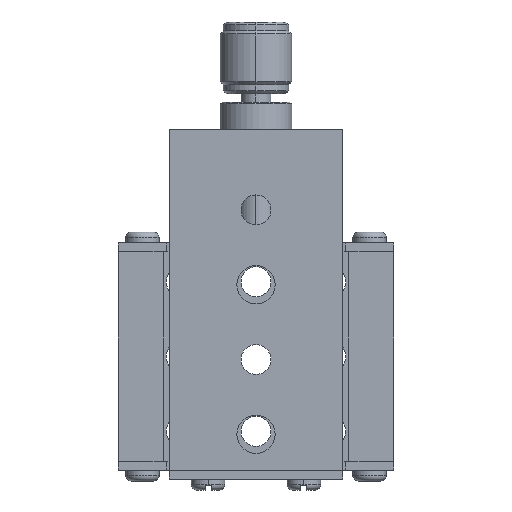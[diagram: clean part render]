
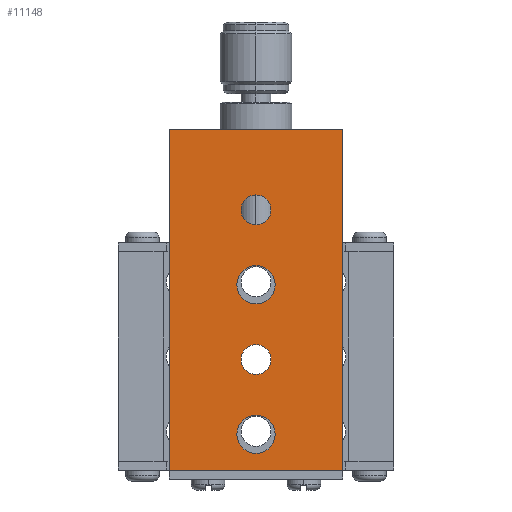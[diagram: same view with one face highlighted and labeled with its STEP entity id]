
A CAD part, left-side view. The second image highlights one B-rep face of the part: STEP entity #11148.
In plain terms, the highlighted planar face has unit normal (-1, 0, 0).
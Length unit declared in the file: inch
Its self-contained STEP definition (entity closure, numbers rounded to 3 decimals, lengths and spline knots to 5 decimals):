
#1=DIRECTION('',(0.,0.,1.));
#2=VECTOR('',#1,2.24409);
#3=CARTESIAN_POINT('',(0.,0.57087,-0.98425));
#4=LINE('',#3,#2);
#5=DIRECTION('',(0.,-1.,0.));
#6=VECTOR('',#5,1.14173);
#7=CARTESIAN_POINT('',(0.,0.57087,-0.98425));
#8=LINE('',#7,#6);
#9=CARTESIAN_POINT('',(0.,0.,0.72835));
#10=DIRECTION('',(1.,0.,0.));
#11=DIRECTION('',(0.,-1.,0.));
#12=AXIS2_PLACEMENT_3D('',#9,#10,#11);
#14=CARTESIAN_POINT('',(0.,0.,0.72835));
#15=DIRECTION('',(1.,0.,0.));
#16=DIRECTION('',(0.,1.,0.));
#17=AXIS2_PLACEMENT_3D('',#14,#15,#16);
#19=CARTESIAN_POINT('',(0.,0.,0.23622));
#20=DIRECTION('',(-1.,0.,0.));
#21=DIRECTION('',(0.,-1.,0.));
#22=AXIS2_PLACEMENT_3D('',#19,#20,#21);
#24=CARTESIAN_POINT('',(0.,0.,0.23622));
#25=DIRECTION('',(-1.,0.,0.));
#26=DIRECTION('',(0.,1.,0.));
#27=AXIS2_PLACEMENT_3D('',#24,#25,#26);
#29=CARTESIAN_POINT('',(0.,0.,-0.25591));
#30=DIRECTION('',(1.,0.,0.));
#31=DIRECTION('',(0.,-1.,0.));
#32=AXIS2_PLACEMENT_3D('',#29,#30,#31);
#34=CARTESIAN_POINT('',(0.,0.,-0.25591));
#35=DIRECTION('',(1.,0.,0.));
#36=DIRECTION('',(0.,1.,0.));
#37=AXIS2_PLACEMENT_3D('',#34,#35,#36);
#39=CARTESIAN_POINT('',(0.,0.,-0.74803));
#40=DIRECTION('',(-1.,0.,0.));
#41=DIRECTION('',(0.,-1.,0.));
#42=AXIS2_PLACEMENT_3D('',#39,#40,#41);
#44=CARTESIAN_POINT('',(0.,0.,-0.74803));
#45=DIRECTION('',(-1.,0.,0.));
#46=DIRECTION('',(0.,1.,0.));
#47=AXIS2_PLACEMENT_3D('',#44,#45,#46);
#93=DIRECTION('',(0.,0.,1.));
#94=VECTOR('',#93,2.24409);
#95=CARTESIAN_POINT('',(0.,-0.57087,-0.98425));
#96=LINE('',#95,#94);
#8374=DIRECTION('',(0.,-1.,0.));
#8375=VECTOR('',#8374,1.14173);
#8376=CARTESIAN_POINT('',(0.,0.57087,1.25984));
#8377=LINE('',#8376,#8375);
#9972=CARTESIAN_POINT('',(0.,-0.09843,0.72835));
#9973=CARTESIAN_POINT('',(0.,0.09843,0.72835));
#9974=VERTEX_POINT('',#9972);
#9975=VERTEX_POINT('',#9973);
#9980=CARTESIAN_POINT('',(0.,-0.12598,0.23622));
#9981=CARTESIAN_POINT('',(0.,0.12598,0.23622));
#9982=VERTEX_POINT('',#9980);
#9983=VERTEX_POINT('',#9981);
#9994=CARTESIAN_POINT('',(0.,-0.09843,-0.25591));
#9995=CARTESIAN_POINT('',(0.,0.09843,-0.25591));
#9996=VERTEX_POINT('',#9994);
#9997=VERTEX_POINT('',#9995);
#10002=CARTESIAN_POINT('',(0.,-0.12598,-0.74803));
#10003=CARTESIAN_POINT('',(0.,0.12598,-0.74803));
#10004=VERTEX_POINT('',#10002);
#10005=VERTEX_POINT('',#10003);
#10051=CARTESIAN_POINT('',(0.,0.57087,1.25984));
#10053=VERTEX_POINT('',#10051);
#10054=CARTESIAN_POINT('',(0.,-0.57087,1.25984));
#10055=VERTEX_POINT('',#10054);
#10793=CARTESIAN_POINT('',(0.,0.57087,-0.98425));
#10794=CARTESIAN_POINT('',(0.,-0.57087,-0.98425));
#10795=VERTEX_POINT('',#10793);
#10796=VERTEX_POINT('',#10794);
#11109=CARTESIAN_POINT('',(0.,0.,0.));
#11110=DIRECTION('',(1.,0.,0.));
#11111=DIRECTION('',(0.,-1.,0.));
#11112=AXIS2_PLACEMENT_3D('',#11109,#11110,#11111);
#11113=PLANE('',#11112);
#11115=ORIENTED_EDGE('',*,*,#11114,.T.);
#11117=ORIENTED_EDGE('',*,*,#11116,.T.);
#11119=ORIENTED_EDGE('',*,*,#11118,.F.);
#11121=ORIENTED_EDGE('',*,*,#11120,.F.);
#11122=EDGE_LOOP('',(#11115,#11117,#11119,#11121));
#11123=FACE_OUTER_BOUND('',#11122,.F.);
#11125=ORIENTED_EDGE('',*,*,#11124,.F.);
#11127=ORIENTED_EDGE('',*,*,#11126,.F.);
#11128=EDGE_LOOP('',(#11125,#11127));
#11129=FACE_BOUND('',#11128,.F.);
#11131=ORIENTED_EDGE('',*,*,#11130,.T.);
#11133=ORIENTED_EDGE('',*,*,#11132,.T.);
#11134=EDGE_LOOP('',(#11131,#11133));
#11135=FACE_BOUND('',#11134,.F.);
#11137=ORIENTED_EDGE('',*,*,#11136,.F.);
#11139=ORIENTED_EDGE('',*,*,#11138,.F.);
#11140=EDGE_LOOP('',(#11137,#11139));
#11141=FACE_BOUND('',#11140,.F.);
#11143=ORIENTED_EDGE('',*,*,#11142,.T.);
#11145=ORIENTED_EDGE('',*,*,#11144,.T.);
#11146=EDGE_LOOP('',(#11143,#11145));
#11147=FACE_BOUND('',#11146,.F.);
#11148=ADVANCED_FACE('',(#11123,#11129,#11135,#11141,#11147),#11113,.F.);
#13=CIRCLE('',#12,0.09843);
#18=CIRCLE('',#17,0.09843);
#23=CIRCLE('',#22,0.12598);
#28=CIRCLE('',#27,0.12598);
#33=CIRCLE('',#32,0.09843);
#38=CIRCLE('',#37,0.09843);
#43=CIRCLE('',#42,0.12598);
#48=CIRCLE('',#47,0.12598);
#11114=EDGE_CURVE('',#10795,#10053,#4,.T.);
#11116=EDGE_CURVE('',#10053,#10055,#8377,.T.);
#11118=EDGE_CURVE('',#10796,#10055,#96,.T.);
#11120=EDGE_CURVE('',#10795,#10796,#8,.T.);
#11124=EDGE_CURVE('',#9974,#9975,#13,.T.);
#11126=EDGE_CURVE('',#9975,#9974,#18,.T.);
#11130=EDGE_CURVE('',#9982,#9983,#23,.T.);
#11132=EDGE_CURVE('',#9983,#9982,#28,.T.);
#11136=EDGE_CURVE('',#9996,#9997,#33,.T.);
#11138=EDGE_CURVE('',#9997,#9996,#38,.T.);
#11142=EDGE_CURVE('',#10004,#10005,#43,.T.);
#11144=EDGE_CURVE('',#10005,#10004,#48,.T.);
